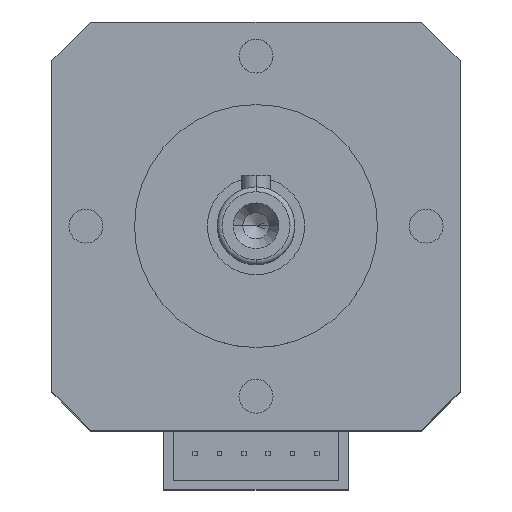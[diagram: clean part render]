
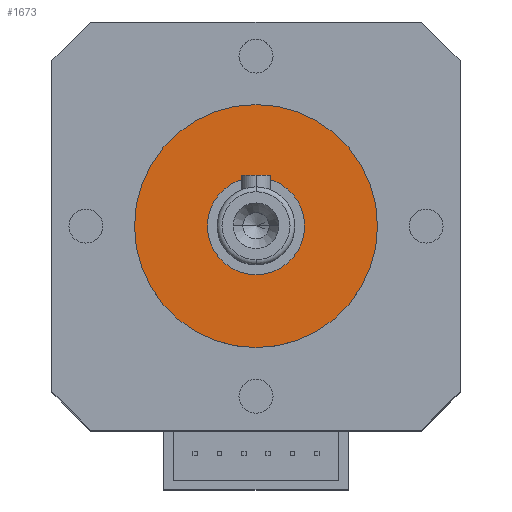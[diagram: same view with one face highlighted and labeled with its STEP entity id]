
A CAD part, top view. The second image highlights one B-rep face of the part: STEP entity #1673.
In plain terms, the highlighted planar face has unit normal (0, 0, 1).
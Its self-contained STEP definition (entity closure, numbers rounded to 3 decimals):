
#31 = CARTESIAN_POINT ( 'NONE',  ( 5., 0., 2. ) ) ;
#149 = CARTESIAN_POINT ( 'NONE',  ( 12.5, 0., 2. ) ) ;
#212 = VERTEX_POINT ( 'NONE', #1749 ) ;
#253 = EDGE_CURVE ( 'NONE', #2613, #1313, #2649, .T. ) ;
#299 = EDGE_LOOP ( 'NONE', ( #1711, #2917 ) ) ;
#358 = ORIENTED_EDGE ( 'NONE', *, *, #1070, .F. ) ;
#375 = DIRECTION ( 'NONE',  ( 0., 0., 1. ) ) ;
#458 = PLANE ( 'NONE',  #1779 ) ;
#470 = DIRECTION ( 'NONE',  ( 0., 0., 1. ) ) ;
#520 = CARTESIAN_POINT ( 'NONE',  ( 0., 0., 2. ) ) ;
#676 = FACE_OUTER_BOUND ( 'NONE', #299, .T. ) ;
#677 = CIRCLE ( 'NONE', #1505, 5. ) ;
#787 = ORIENTED_EDGE ( 'NONE', *, *, #253, .F. ) ;
#854 = DIRECTION ( 'NONE',  ( -1., 0., 0. ) ) ;
#923 = EDGE_CURVE ( 'NONE', #212, #2494, #2856, .T. ) ;
#1028 = DIRECTION ( 'NONE',  ( 0., 0., -1. ) ) ;
#1070 = EDGE_CURVE ( 'NONE', #1313, #2613, #677, .T. ) ;
#1262 = CARTESIAN_POINT ( 'NONE',  ( -5., 0., 2. ) ) ;
#1313 = VERTEX_POINT ( 'NONE', #31 ) ;
#1421 = DIRECTION ( 'NONE',  ( -1., 0., 0. ) ) ;
#1463 = EDGE_LOOP ( 'NONE', ( #787, #358 ) ) ;
#1505 = AXIS2_PLACEMENT_3D ( 'NONE', #2400, #375, #854 ) ;
#1673 = ADVANCED_FACE ( 'NONE', ( #676, #3241 ), #458, .F. ) ;
#1711 = ORIENTED_EDGE ( 'NONE', *, *, #923, .F. ) ;
#1749 = CARTESIAN_POINT ( 'NONE',  ( -12.5, 0., 2. ) ) ;
#1779 = AXIS2_PLACEMENT_3D ( 'NONE', #2744, #3011, #1421 ) ;
#2177 = DIRECTION ( 'NONE',  ( 0., 0., -1. ) ) ;
#2300 = DIRECTION ( 'NONE',  ( -1., 0., 0. ) ) ;
#2400 = CARTESIAN_POINT ( 'NONE',  ( 0., 0., 2. ) ) ;
#2425 = EDGE_CURVE ( 'NONE', #2494, #212, #2473, .T. ) ;
#2473 = CIRCLE ( 'NONE', #3036, 12.5 ) ;
#2494 = VERTEX_POINT ( 'NONE', #149 ) ;
#2613 = VERTEX_POINT ( 'NONE', #1262 ) ;
#2649 = CIRCLE ( 'NONE', #2820, 5. ) ;
#2670 = DIRECTION ( 'NONE',  ( -1., 0., 0. ) ) ;
#2744 = CARTESIAN_POINT ( 'NONE',  ( 0., 0., 2. ) ) ;
#2788 = DIRECTION ( 'NONE',  ( -1., 0., 0. ) ) ;
#2820 = AXIS2_PLACEMENT_3D ( 'NONE', #3023, #470, #2788 ) ;
#2856 = CIRCLE ( 'NONE', #3078, 12.5 ) ;
#2917 = ORIENTED_EDGE ( 'NONE', *, *, #2425, .F. ) ;
#3011 = DIRECTION ( 'NONE',  ( 0., 0., -1. ) ) ;
#3023 = CARTESIAN_POINT ( 'NONE',  ( 0., 0., 2. ) ) ;
#3036 = AXIS2_PLACEMENT_3D ( 'NONE', #3199, #2177, #2670 ) ;
#3078 = AXIS2_PLACEMENT_3D ( 'NONE', #520, #1028, #2300 ) ;
#3199 = CARTESIAN_POINT ( 'NONE',  ( 0., 0., 2. ) ) ;
#3241 = FACE_BOUND ( 'NONE', #1463, .T. ) ;
